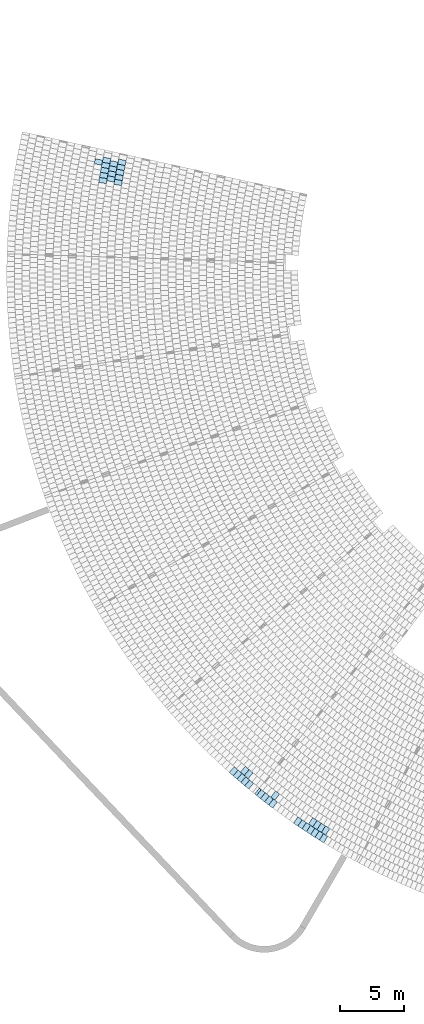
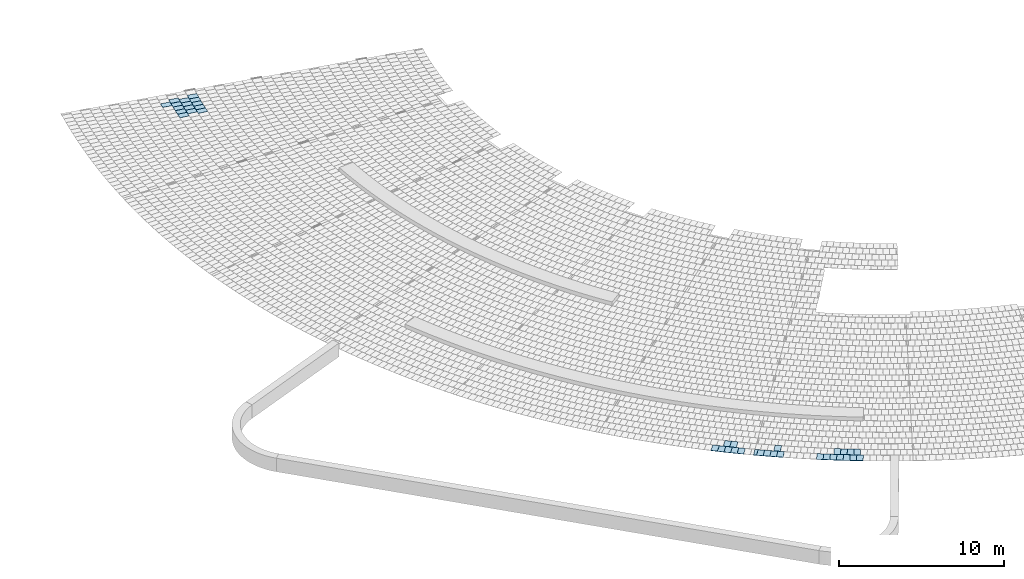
# One storey, part 92 of 438: 39 slabs.
"""IFC2X3 building model written with IfcOpenShell, lengths in millimetres."""

from ifc_helpers import new_model, entity, si_unit, converted_unit, derived_unit, direction, frame, frame_2d, origin, place, context, subcontext, project, spatial, polyline, rectangle, outline, extrude, material, layer, layer_set, layer_usage, type_object, element, save


model = new_model("IFC2X3")

# Units and contexts
model_context = context("Model", 3, precision=0.01, world=origin(), true_north=direction((6.123031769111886e-17, 1.0)))
body_context = subcontext(model_context, "Body", "Model", "MODEL_VIEW")
ifc_project = project(units=[si_unit("LENGTHUNIT", "METRE", prefix="MILLI"), si_unit("AREAUNIT", "SQUARE_METRE"), si_unit("VOLUMEUNIT", "CUBIC_METRE"), converted_unit("PLANEANGLEUNIT", "DEGREE", entity("IfcRatioMeasure", 0.017453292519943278), si_unit("PLANEANGLEUNIT", "RADIAN"), dimensions=[0, 0, 0, 0, 0, 0, 0]), si_unit("MASSUNIT", "GRAM", prefix="KILO"), derived_unit("MASSDENSITYUNIT", [(si_unit("MASSUNIT", "GRAM", prefix="KILO"), 1), (si_unit("LENGTHUNIT", "METRE"), -3)]), derived_unit("MOMENTOFINERTIAUNIT", [(si_unit("LENGTHUNIT", "METRE"), 4)]), si_unit("TIMEUNIT", "SECOND"), si_unit("FREQUENCYUNIT", "HERTZ"), si_unit("THERMODYNAMICTEMPERATUREUNIT", "DEGREE_CELSIUS"), derived_unit("THERMALTRANSMITTANCEUNIT", [(si_unit("MASSUNIT", "GRAM", prefix="KILO"), 1), (si_unit("THERMODYNAMICTEMPERATUREUNIT", "KELVIN"), -1), (si_unit("TIMEUNIT", "SECOND"), -3)]), derived_unit("THERMALCONDUCTANCEUNIT", [(si_unit("MASSUNIT", "GRAM", prefix="KILO"), 1), (si_unit("LENGTHUNIT", "METRE"), 1), (si_unit("THERMODYNAMICTEMPERATUREUNIT", "KELVIN"), -1), (si_unit("TIMEUNIT", "SECOND"), -3)]), derived_unit("VOLUMETRICFLOWRATEUNIT", [(si_unit("LENGTHUNIT", "METRE"), 3), (si_unit("TIMEUNIT", "SECOND"), -1)]), derived_unit("MASSFLOWRATEUNIT", [(si_unit("MASSUNIT", "GRAM", prefix="KILO"), 1), (si_unit("TIMEUNIT", "SECOND"), -1)]), derived_unit("ROTATIONALFREQUENCYUNIT", [(si_unit("TIMEUNIT", "SECOND"), -1)]), si_unit("ELECTRICCURRENTUNIT", "AMPERE"), si_unit("ELECTRICVOLTAGEUNIT", "VOLT"), si_unit("POWERUNIT", "WATT"), converted_unit("FORCEUNIT", "KIP", entity("IfcRatioMeasure", 2.088543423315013e-05), si_unit("FORCEUNIT", "NEWTON"), dimensions=[1, 1, -2, 0, 0, 0, 0]), si_unit("ILLUMINANCEUNIT", "LUX"), si_unit("LUMINOUSFLUXUNIT", "LUMEN"), si_unit("LUMINOUSINTENSITYUNIT", "CANDELA"), derived_unit("USERDEFINED", [(si_unit("MASSUNIT", "GRAM", prefix="KILO"), -1), (si_unit("LENGTHUNIT", "METRE"), -2), (si_unit("TIMEUNIT", "SECOND"), 3), (si_unit("LUMINOUSFLUXUNIT", "LUMEN"), 1)]), derived_unit("USERDEFINED", [(si_unit("MASSUNIT", "GRAM", prefix="KILO"), 1), (si_unit("LENGTHUNIT", "METRE"), 3), (si_unit("TIMEUNIT", "SECOND"), -3), (si_unit("ELECTRICCURRENTUNIT", "AMPERE"), -2)]), derived_unit("USERDEFINED", [(si_unit("LENGTHUNIT", "METRE"), 2), (si_unit("TIMEUNIT", "SECOND"), -2)]), derived_unit("SOUNDPOWERUNIT", [(si_unit("MASSUNIT", "GRAM", prefix="KILO"), 1), (si_unit("LENGTHUNIT", "METRE"), 2), (si_unit("TIMEUNIT", "SECOND"), -3)]), derived_unit("SOUNDPRESSUREUNIT", [(si_unit("MASSUNIT", "GRAM", prefix="KILO"), 1), (si_unit("LENGTHUNIT", "METRE"), -1), (si_unit("TIMEUNIT", "SECOND"), -2)]), derived_unit("LINEARVELOCITYUNIT", [(si_unit("LENGTHUNIT", "METRE"), 1), (si_unit("TIMEUNIT", "SECOND"), -1)]), si_unit("PRESSUREUNIT", "PASCAL"), derived_unit("USERDEFINED", [(si_unit("LENGTHUNIT", "METRE"), -2), (si_unit("MASSUNIT", "GRAM", prefix="KILO"), 1), (si_unit("TIMEUNIT", "SECOND"), -2)]), derived_unit("LINEARFORCEUNIT", [(si_unit("MASSUNIT", "GRAM", prefix="KILO"), 1), (si_unit("LENGTHUNIT", "METRE"), 1), (si_unit("TIMEUNIT", "SECOND"), -2), (si_unit("LENGTHUNIT", "METRE"), -1)]), derived_unit("PLANARFORCEUNIT", [(si_unit("MASSUNIT", "GRAM", prefix="KILO"), 1), (si_unit("LENGTHUNIT", "METRE"), 1), (si_unit("TIMEUNIT", "SECOND"), -2), (si_unit("LENGTHUNIT", "METRE"), -2)]), derived_unit("SPECIFICHEATCAPACITYUNIT", [(si_unit("LENGTHUNIT", "METRE"), 2), (si_unit("TIMEUNIT", "SECOND"), -2), (si_unit("THERMODYNAMICTEMPERATUREUNIT", "KELVIN"), -1)]), derived_unit("VAPORPERMEABILITYUNIT", [(si_unit("TIMEUNIT", "SECOND"), 1), (si_unit("LENGTHUNIT", "METRE"), -1)]), derived_unit("DYNAMICVISCOSITYUNIT", [(si_unit("MASSUNIT", "GRAM", prefix="KILO"), 1), (si_unit("LENGTHUNIT", "METRE"), -1), (si_unit("TIMEUNIT", "SECOND"), -1)]), derived_unit("THERMALEXPANSIONCOEFFICIENTUNIT", [(si_unit("THERMODYNAMICTEMPERATUREUNIT", "KELVIN"), -1)])], contexts=[model_context])

# Site, building, storey
site_placement = place(None, frame((0.0, 0.0, 0.0), z_axis=(0.0, 0.0, 1.0), x_axis=(0.8191520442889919, 0.5735764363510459, 0.0)))
site = spatial("IfcSite", under=ifc_project, at=site_placement, Name="Default", CompositionType="ELEMENT")
building_placement = place(site_placement, origin())
building = spatial("IfcBuilding", under=site, at=building_placement, CompositionType="ELEMENT")
storey_placement = place(building_placement, origin())
storey = spatial("IfcBuildingStorey", under=building, at=storey_placement, Name="PLAN", CompositionType="ELEMENT", Elevation=0.0)

# Slabs
ifc_material = material(Name="Paint-01")
ifc_layer = layer(ifc_material, 20.00000000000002)
ifc_layer_set = layer_set([ifc_layer], Name="Floor:Slab-179:1000")
ifc_layer_usage = layer_usage(ifc_layer_set, "AXIS3", "POSITIVE", 0.0)
slab_type = type_object("IfcSlabType", Name="Floor:Slab-179:1000", PredefinedType="FLOOR", material=ifc_layer_set)
slab_1_placement = place(storey_placement, origin())
element("IfcSlab", 1, at=slab_1_placement, inside=storey, type_object=slab_type, material=ifc_layer_usage, Name="Floor:Slab-179:1000", ObjectType="Floor:Slab-179:1000", PredefinedType="FLOOR", context=body_context, shape_type="SweptSolid", body=[
    extrude(outline(polyline([(-299.9999976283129, -200.0000029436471), (300.0, -200.0000029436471), (299.9999976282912, 200.0000029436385), (-300.0, 200.00000294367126), (-299.9999976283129, -200.0000029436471)])), frame((-70759.17855631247, -35787.00423847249, 520.0), z_axis=(0.0, 0.0, -1.0), x_axis=(0.6873772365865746, -0.7263005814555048, 0.0)), (0.0, 0.0, 1.0), 19.99999999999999),
])
slab_2_placement = place(storey_placement, origin())
element("IfcSlab", 2, at=slab_2_placement, inside=storey, type_object=slab_type, material=ifc_layer_usage, Name="Floor:Slab-179:1000", ObjectType="Floor:Slab-179:1000", PredefinedType="FLOOR", context=body_context, shape_type="SweptSolid", body=[
    extrude(outline(polyline([(-299.99999762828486, -200.00000294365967), (300.0, -200.00000294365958), (299.9999976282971, 200.00000294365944), (-300.0, 200.00000294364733), (-299.99999762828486, -200.00000294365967)])), frame((-71050.41561799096, -36065.15506051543, 520.0), z_axis=(0.0, 0.0, -1.0), x_axis=(0.6939544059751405, -0.7200189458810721, 0.0)), (0.0, 0.0, 1.0), 19.999999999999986),
])
slab_3_placement = place(storey_placement, origin())
element("IfcSlab", 3, at=slab_3_placement, inside=storey, type_object=slab_type, material=ifc_layer_usage, Name="Floor:Slab-179:1000", ObjectType="Floor:Slab-179:1000", PredefinedType="FLOOR", context=body_context, shape_type="SweptSolid", body=[
    extrude(outline(polyline([(-299.9999976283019, -200.00000294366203), (300.0, -200.00000294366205), (299.999997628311, 200.0000029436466), (-300.0, 200.00000294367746), (-299.9999976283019, -200.00000294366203)])), frame((-71339.11089291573, -36345.94313742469, 520.0), z_axis=(0.0, 0.0, -1.0), x_axis=(0.7004741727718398, -0.7136777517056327, 0.0)), (0.0, 0.0, 1.0), 20.000000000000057),
])
slab_4_placement = place(storey_placement, origin())
element("IfcSlab", 4, at=slab_4_placement, inside=storey, type_object=slab_type, material=ifc_layer_usage, Name="Floor:Slab-179:1000", ObjectType="Floor:Slab-179:1000", PredefinedType="FLOOR", context=body_context, shape_type="SweptSolid", body=[
    extrude(outline(polyline([(-299.99999762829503, -200.00000294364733), (300.0, -200.00000294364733), (299.9999976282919, 200.00000294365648), (-300.0, 200.00000294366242), (-299.99999762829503, -200.00000294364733)])), frame((-71908.78077342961, -36915.337934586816, 520.0), z_axis=(0.0, 0.0, -1.0), x_axis=(0.7133393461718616, -0.700818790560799, 0.0)), (0.0, 0.0, 1.0), 20.000000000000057),
])
slab_5_placement = place(storey_placement, origin())
element("IfcSlab", 5, at=slab_5_placement, inside=storey, type_object=slab_type, material=ifc_layer_usage, Name="Floor:Slab-179:1000", ObjectType="Floor:Slab-179:1000", PredefinedType="FLOOR", context=body_context, shape_type="SweptSolid", body=[
    extrude(rectangle(XDim=599.9999798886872, YDim=399.9999942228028, at=frame_2d((3.069544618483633e-12, 3.069544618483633e-12), x_axis=(1.0, 0.0))), frame((-71625.25757629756, -36629.4306251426, 520.0), z_axis=(0.0, 0.0, -1.0), x_axis=(0.7071067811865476, -0.7071067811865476, 0.0)), (0.0, 0.0, 1.0), 19.999999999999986),
])
slab_6_placement = place(storey_placement, origin())
element("IfcSlab", 6, at=slab_6_placement, inside=storey, type_object=slab_type, material=ifc_layer_usage, Name="Floor:Slab-179:1000", ObjectType="Floor:Slab-179:1000", PredefinedType="FLOOR", context=body_context, shape_type="SweptSolid", body=[
    extrude(outline(polyline([(-299.99999762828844, -200.0000029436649), (300.0, -200.00000294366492), (299.99999762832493, 200.00000294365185), (-300.0, 200.00000294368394), (-299.99999762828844, -200.0000029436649)])), frame((-71355.00271200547, -35518.85556445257, 520.0), z_axis=(0.0, 0.0, -1.0), x_axis=(0.6913866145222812, -0.7224849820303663, 0.0)), (0.0, 0.0, 1.0), 20.000000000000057),
])
slab_7_placement = place(storey_placement, origin())
element("IfcSlab", 7, at=slab_7_placement, inside=storey, type_object=slab_type, material=ifc_layer_usage, Name="Floor:Slab-179:1000", ObjectType="Floor:Slab-179:1000", PredefinedType="FLOOR", context=body_context, shape_type="SweptSolid", body=[
    extrude(outline(polyline([(-299.9999976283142, -200.00000294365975), (300.0, -200.00000294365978), (299.99999762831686, 200.00000294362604), (-300.0, 200.0000029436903), (-299.9999976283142, -200.00000294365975)])), frame((-71644.68652075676, -35798.57053963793, 520.0), z_axis=(0.0, 0.0, -1.0), x_axis=(0.6978405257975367, -0.7162531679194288, 0.0)), (0.0, 0.0, 1.0), 20.000000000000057),
])
slab_8_placement = place(storey_placement, origin())
element("IfcSlab", 8, at=slab_8_placement, inside=storey, type_object=slab_type, material=ifc_layer_usage, Name="Floor:Slab-179:1000", ObjectType="Floor:Slab-179:1000", PredefinedType="FLOOR", context=body_context, shape_type="SweptSolid", body=[
    extrude(outline(polyline([(-299.9999976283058, -200.00000294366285), (300.0, -200.00000294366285), (299.99999762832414, 200.00000294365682), (-300.0, 200.00000294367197), (-299.9999976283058, -200.00000294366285)])), frame((-72216.4677065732, -36365.74064581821, 520.0), z_axis=(0.0, 0.0, -1.0), x_axis=(0.7105793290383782, -0.7036170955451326, 0.0)), (0.0, 0.0, 1.0), 20.000000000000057),
])
slab_9_placement = place(storey_placement, origin())
element("IfcSlab", 9, at=slab_9_placement, inside=storey, type_object=slab_type, material=ifc_layer_usage, Name="Floor:Slab-179:1000", ObjectType="Floor:Slab-179:1000", PredefinedType="FLOOR", context=body_context, shape_type="SweptSolid", body=[
    extrude(outline(polyline([(-299.99999762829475, -200.00000294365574), (300.0, -200.00000294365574), (299.999997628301, 200.0000029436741), (-300.0, 200.00000294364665), (-299.99999762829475, -200.00000294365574)])), frame((-71931.84922337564, -36080.87314079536, 520.0), z_axis=(0.0, 0.0, -1.0), x_axis=(0.7042382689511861, -0.7099637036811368, 0.0)), (0.0, 0.0, 1.0), 20.000000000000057),
])
slab_10_placement = place(storey_placement, origin())
element("IfcSlab", 10, at=slab_10_placement, inside=storey, type_object=slab_type, material=ifc_layer_usage, Name="Floor:Slab-179:1000", ObjectType="Floor:Slab-179:1000", PredefinedType="FLOOR", context=body_context, shape_type="SweptSolid", body=[
    extrude(outline(polyline([(-299.999997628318, -200.00000294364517), (300.0, -200.00000294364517), (299.99999762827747, 200.00000294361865), (-300.0, 200.00000294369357), (-299.999997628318, -200.00000294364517)])), frame((-71659.22760995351, -34972.97581864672, 520.0), z_axis=(0.0, 0.0, -1.0), x_axis=(0.6888791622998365, -0.724876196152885, 0.0)), (0.0, 0.0, 1.0), 19.999999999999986),
])
slab_11_placement = place(storey_placement, origin())
element("IfcSlab", 11, at=slab_11_placement, inside=storey, type_object=slab_type, material=ifc_layer_usage, Name="Floor:Slab-179:1000", ObjectType="Floor:Slab-179:1000", PredefinedType="FLOOR", context=body_context, shape_type="SweptSolid", body=[
    extrude(outline(polyline([(-299.9999976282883, -200.00000294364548), (300.0, -200.00000294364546), (299.9999976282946, 200.0000029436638), (-300.0, 200.00000294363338), (-299.9999976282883, -200.00000294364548)])), frame((-72238.03373682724, -35532.87200765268, 520.0), z_axis=(0.0, 0.0, -1.0), x_axis=(0.7016029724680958, -0.7125680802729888, 0.0)), (0.0, 0.0, 1.0), 20.000000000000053),
])
slab_12_placement = place(storey_placement, origin())
element("IfcSlab", 12, at=slab_12_placement, inside=storey, type_object=slab_type, material=ifc_layer_usage, Name="Floor:Slab-179:1000", ObjectType="Floor:Slab-179:1000", PredefinedType="FLOOR", context=body_context, shape_type="SweptSolid", body=[
    extrude(rectangle(XDim=599.9996357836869, YDim=399.99976482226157, at=frame_2d((-3.069544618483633e-12, 3.069544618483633e-12), x_axis=(1.0, 0.0))), frame((-72523.61964324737, -35816.25239444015, 520.0), z_axis=(0.0, 0.0, -1.0), x_axis=(0.7071067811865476, -0.7071067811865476, 0.0)), (0.0, 0.0, 1.0), 19.999999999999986),
])
slab_13_placement = place(storey_placement, origin())
element("IfcSlab", 13, at=slab_13_placement, inside=storey, type_object=slab_type, material=ifc_layer_usage, Name="Floor:Slab-179:1000", ObjectType="Floor:Slab-179:1000", PredefinedType="FLOOR", context=body_context, shape_type="SweptSolid", body=[
    extrude(outline(polyline([(-299.9999976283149, -200.00000294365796), (300.0, -200.00000294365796), (299.99999762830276, 200.00000294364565), (-300.0, 200.00000294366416), (-299.9999976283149, -200.00000294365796)])), frame((-72806.83789142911, -36102.92648634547, 520.0), z_axis=(0.0, 0.0, -1.0), x_axis=(0.7141069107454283, -0.7000366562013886, 0.0)), (0.0, 0.0, 1.0), 19.999999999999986),
])
slab_14_placement = place(storey_placement, origin())
element("IfcSlab", 14, at=slab_14_placement, inside=storey, type_object=slab_type, material=ifc_layer_usage, Name="Floor:Slab-179:1000", ObjectType="Floor:Slab-179:1000", PredefinedType="FLOOR", context=body_context, shape_type="SweptSolid", body=[
    extrude(outline(polyline([(-299.9999976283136, -200.00000294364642), (300.0, -200.00000294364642), (299.99999762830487, 200.00000294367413), (-300.0, 200.00000294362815), (-299.9999976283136, -200.00000294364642)])), frame((-71949.86965590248, -35251.64308523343, 520.0), z_axis=(0.0, 0.0, -1.0), x_axis=(0.695268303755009, -0.7187502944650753, 0.0)), (0.0, 0.0, 1.0), 20.000000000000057),
])
slab_15_placement = place(storey_placement, origin())
element("IfcSlab", 15, at=slab_15_placement, inside=storey, type_object=slab_type, material=ifc_layer_usage, Name="Floor:Slab-179:1000", ObjectType="Floor:Slab-179:1000", PredefinedType="FLOOR", context=body_context, shape_type="SweptSolid", body=[
    extrude(outline(polyline([(-299.99999762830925, -200.0000029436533), (300.0, -200.0000029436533), (299.99999762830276, 200.00000294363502), (-300.0, 200.00000294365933), (-299.99999762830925, -200.0000029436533)])), frame((-72254.67743088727, -34705.14445037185, 520.0), z_axis=(0.0, 0.0, -1.0), x_axis=(0.6927554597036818, -0.7211725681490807, 0.0)), (0.0, 0.0, 1.0), 20.000000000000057),
])
slab_16_placement = place(storey_placement, origin())
element("IfcSlab", 16, at=slab_16_placement, inside=storey, type_object=slab_type, material=ifc_layer_usage, Name="Floor:Slab-179:1000", ObjectType="Floor:Slab-179:1000", PredefinedType="FLOOR", context=body_context, shape_type="SweptSolid", body=[
    extrude(outline(polyline([(-200.00000134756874, -299.9999986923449), (200.0000045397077, -299.99999869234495), (200.00000134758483, 299.99999869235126), (-200.00000453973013, 299.9999986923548), (-200.00000134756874, -299.9999986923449)])), frame((-88877.96414728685, -86958.91980552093, 520.0), z_axis=(0.0, 0.0, -1.0), x_axis=(0.3645857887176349, -0.9311698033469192, 0.0)), (0.0, 0.0, 1.0), 19.999999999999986),
])
slab_17_placement = place(storey_placement, origin())
element("IfcSlab", 17, at=slab_17_placement, inside=storey, type_object=slab_type, material=ifc_layer_usage, Name="Floor:Slab-179:1000", ObjectType="Floor:Slab-179:1000", PredefinedType="FLOOR", context=body_context, shape_type="SweptSolid", body=[
    extrude(outline(polyline([(-200.0000045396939, -299.9999986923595), (200.00000134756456, -299.99999869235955), (200.00000453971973, 299.9999986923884), (-200.0000013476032, 299.9999986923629), (-200.0000045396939, -299.9999986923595)])), frame((-88240.89732246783, -86925.52516931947, 520.0), z_axis=(0.0, 0.0, -1.0), x_axis=(0.36821751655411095, -0.9297396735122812, 0.0)), (0.0, 0.0, 1.0), 20.000000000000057),
])
slab_18_placement = place(storey_placement, origin())
element("IfcSlab", 18, at=slab_18_placement, inside=storey, type_object=slab_type, material=ifc_layer_usage, Name="Floor:Slab-179:1000", ObjectType="Floor:Slab-179:1000", PredefinedType="FLOOR", context=body_context, shape_type="SweptSolid", body=[
    extrude(outline(polyline([(-200.00000453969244, -299.99999869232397), (200.00000134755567, -299.99999869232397), (200.0000045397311, 299.99999869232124), (-200.00000134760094, 299.9999986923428), (-200.00000453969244, -299.99999869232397)])), frame((-87938.77201673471, -87671.32452095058, 520.0), z_axis=(0.0, 0.0, -1.0), x_axis=(0.3826878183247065, -0.9238777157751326, 0.0)), (0.0, 0.0, 1.0), 20.000000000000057),
])
slab_19_placement = place(storey_placement, origin())
element("IfcSlab", 19, at=slab_19_placement, inside=storey, type_object=slab_type, material=ifc_layer_usage, Name="Floor:Slab-179:1000", ObjectType="Floor:Slab-179:1000", PredefinedType="FLOOR", context=body_context, shape_type="SweptSolid", body=[
    extrude(outline(polyline([(-200.00000453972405, -299.99999869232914), (200.0000013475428, -299.99999869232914), (200.0000045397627, 299.9999986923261), (-200.00000134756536, 299.9999986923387), (-200.00000453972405, -299.99999869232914)])), frame((-88091.29017187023, -87299.01447298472, 520.0), z_axis=(0.0, 0.0, -1.0), x_axis=(0.37546410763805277, -0.9268369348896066, 0.0)), (0.0, 0.0, 1.0), 20.000000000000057),
])
slab_20_placement = place(storey_placement, origin())
element("IfcSlab", 20, at=slab_20_placement, inside=storey, type_object=slab_type, material=ifc_layer_usage, Name="Floor:Slab-179:1000", ObjectType="Floor:Slab-179:1000", PredefinedType="FLOOR", context=body_context, shape_type="SweptSolid", body=[
    extrude(outline(polyline([(-200.00000453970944, -299.9999986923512), (200.00000134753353, -299.9999986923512), (200.00000453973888, 299.9999986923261), (-200.00000134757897, 299.9999986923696), (-200.00000453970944, -299.9999986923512)])), frame((-87783.35215136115, -88042.43262502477, 520.0), z_axis=(0.0, 0.0, -1.0), x_axis=(0.3898882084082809, -0.9208621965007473, 0.0)), (0.0, 0.0, 1.0), 20.000000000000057),
])
slab_21_placement = place(storey_placement, origin())
element("IfcSlab", 21, at=slab_21_placement, inside=storey, type_object=slab_type, material=ifc_layer_usage, Name="Floor:Slab-179:1000", ObjectType="Floor:Slab-179:1000", PredefinedType="FLOOR", context=body_context, shape_type="SweptSolid", body=[
    extrude(outline(polyline([(-200.00000134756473, -299.99999869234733), (200.000004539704, -299.99999869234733), (200.000001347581, 299.9999986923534), (-200.00000453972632, 299.9999986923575), (-200.00000134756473, -299.99999869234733)])), frame((-89165.5269237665, -86207.44357700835, 520.0), z_axis=(0.0, 0.0, -1.0), x_axis=(0.35017450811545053, -0.9366844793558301, 0.0)), (0.0, 0.0, 1.0), 20.000000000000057),
])
slab_22_placement = place(storey_placement, origin())
element("IfcSlab", 22, at=slab_22_placement, inside=storey, type_object=slab_type, material=ifc_layer_usage, Name="Floor:Slab-179:1000", ObjectType="Floor:Slab-179:1000", PredefinedType="FLOOR", context=body_context, shape_type="SweptSolid", body=[
    extrude(outline(polyline([(-200.0000013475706, -299.99999869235), (200.00000453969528, -299.9999986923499), (200.00000134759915, 299.9999986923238), (-200.00000453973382, 299.9999986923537), (-200.0000013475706, -299.99999869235)])), frame((-89023.1950026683, -86583.73634992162, 520.0), z_axis=(0.0, 0.0, -1.0), x_axis=(0.3573907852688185, -0.9339549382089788, 0.0)), (0.0, 0.0, 1.0), 19.999999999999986),
])
slab_23_placement = place(storey_placement, origin())
element("IfcSlab", 23, at=slab_23_placement, inside=storey, type_object=slab_type, material=ifc_layer_usage, Name="Floor:Slab-179:1000", ObjectType="Floor:Slab-179:1000", PredefinedType="FLOOR", context=body_context, shape_type="SweptSolid", body=[
    extrude(outline(polyline([(-200.00000134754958, -299.99999869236), (200.00000453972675, -299.99999869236), (200.00000134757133, 299.9999986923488), (-200.0000045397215, 299.9999986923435), (-200.00000134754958, -299.99999869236)])), frame((-89958.17852259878, -83927.65006527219, 520.0), z_axis=(0.0, 0.0, -1.0), x_axis=(0.3064542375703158, -0.9518853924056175, 0.0)), (0.0, 0.0, 1.0), 20.000000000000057),
])
slab_24_placement = place(storey_placement, origin())
element("IfcSlab", 24, at=slab_24_placement, inside=storey, type_object=slab_type, material=ifc_layer_usage, Name="Floor:Slab-179:1000", ObjectType="Floor:Slab-179:1000", PredefinedType="FLOOR", context=body_context, shape_type="SweptSolid", body=[
    extrude(outline(polyline([(-200.00000134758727, -299.9999986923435), (200.00000453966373, -299.9999986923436), (200.00000134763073, 299.99999869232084), (-200.000004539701, 299.9999986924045), (-200.00000134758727, -299.9999986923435)])), frame((-90079.99040445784, -83544.22276818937, 520.0), z_axis=(0.0, 0.0, -1.0), x_axis=(0.29910113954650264, -0.9542214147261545, 0.0)), (0.0, 0.0, 1.0), 20.000000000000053),
])
slab_25_placement = place(storey_placement, origin())
element("IfcSlab", 25, at=slab_25_placement, inside=storey, type_object=slab_type, material=ifc_layer_usage, Name="Floor:Slab-179:1000", ObjectType="Floor:Slab-179:1000", PredefinedType="FLOOR", context=body_context, shape_type="SweptSolid", body=[
    extrude(outline(polyline([(-200.00000134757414, -299.99999869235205), (200.00000453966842, -299.99999869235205), (200.00000134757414, 299.99999869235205), (-200.00000453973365, 299.9999986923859), (-200.00000134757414, -299.99999869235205)])), frame((-89454.92115398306, -83514.83295119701, 520.0), z_axis=(0.0, 0.0, -1.0), x_axis=(0.30204189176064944, -0.9532946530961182, 0.0)), (0.0, 0.0, 1.0), 20.000000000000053),
])
slab_26_placement = place(storey_placement, origin())
element("IfcSlab", 26, at=slab_26_placement, inside=storey, type_object=slab_type, material=ifc_layer_usage, Name="Floor:Slab-179:1000", ObjectType="Floor:Slab-179:1000", PredefinedType="FLOOR", context=body_context, shape_type="SweptSolid", body=[
    extrude(outline(polyline([(-299.9999991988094, -95.19024377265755), (299.99999818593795, -95.19024377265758), (299.9999991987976, 95.19024377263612), (-299.9999981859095, 95.19024377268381), (-299.9999991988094, -95.19024377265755)])), frame((-90398.60121109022, -82489.1725600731, 520.0), z_axis=(0.0, 0.0, -1.0), x_axis=(0.9608881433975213, 0.2769367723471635, 0.0)), (0.0, 0.0, 1.0), 20.000000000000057),
])
slab_27_placement = place(storey_placement, origin())
element("IfcSlab", 27, at=slab_27_placement, inside=storey, type_object=slab_type, material=ifc_layer_usage, Name="Floor:Slab-179:1000", ObjectType="Floor:Slab-179:1000", PredefinedType="FLOOR", context=body_context, shape_type="SweptSolid", body=[
    extrude(outline(polyline([(-200.00000453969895, -299.9999986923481), (200.00000134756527, -299.9999986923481), (200.00000453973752, 299.9999986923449), (-200.00000134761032, 299.99999869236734), (-200.00000453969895, -299.9999986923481)])), frame((-88729.84300249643, -87332.97161099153, 520.0), z_axis=(0.0, 0.0, -1.0), x_axis=(0.3717590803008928, -0.9283292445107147, 0.0)), (0.0, 0.0, 1.0), 20.000000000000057),
])
slab_28_placement = place(storey_placement, origin())
element("IfcSlab", 28, at=slab_28_placement, inside=storey, type_object=slab_type, material=ifc_layer_usage, Name="Floor:Slab-179:1000", ObjectType="Floor:Slab-179:1000", PredefinedType="FLOOR", context=body_context, shape_type="SweptSolid", body=[
    extrude(outline(polyline([(-200.0000013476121, -299.9999986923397), (200.00000453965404, -299.9999986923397), (200.0000013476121, 299.9999986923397), (-200.00000453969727, 299.9999986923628), (-200.0000013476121, -299.9999986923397)])), frame((-90198.8404462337, -83159.86708099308, 520.0), z_axis=(0.0, 0.0, -1.0), x_axis=(0.2917302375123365, -0.9565006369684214, 0.0)), (0.0, 0.0, 1.0), 20.000000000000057),
])
slab_29_placement = place(storey_placement, origin())
element("IfcSlab", 29, at=slab_29_placement, inside=storey, type_object=slab_type, material=ifc_layer_usage, Name="Floor:Slab-179:1000", ObjectType="Floor:Slab-179:1000", PredefinedType="FLOOR", context=body_context, shape_type="SweptSolid", body=[
    extrude(outline(polyline([(-200.00000453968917, -299.9999986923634), (200.00000134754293, -299.99999869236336), (200.00000453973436, 299.99999869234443), (-200.0000013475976, 299.9999986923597), (-200.00000453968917, -299.9999986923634)])), frame((-88578.84038521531, -87705.86950088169, 520.0), z_axis=(0.0, 0.0, -1.0), x_axis=(0.37891025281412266, -0.9254334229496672, 0.0)), (0.0, 0.0, 1.0), 20.000000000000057),
])
slab_30_placement = place(storey_placement, origin())
element("IfcSlab", 30, at=slab_30_placement, inside=storey, type_object=slab_type, material=ifc_layer_usage, Name="Floor:Slab-179:1000", ObjectType="Floor:Slab-179:1000", PredefinedType="FLOOR", context=body_context, shape_type="SweptSolid", body=[
    extrude(outline(polyline([(-200.00000453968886, -299.99999869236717), (200.00000134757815, -299.99999869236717), (200.00000453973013, 299.99999869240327), (-200.0000013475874, 299.9999986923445), (-200.00000453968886, -299.99999869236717)])), frame((-88424.96528388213, -88077.59127842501, 520.0), z_axis=(0.0, 0.0, -1.0), x_axis=(0.38603887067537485, -0.9224825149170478, 0.0)), (0.0, 0.0, 1.0), 20.000000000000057),
])
slab_31_placement = place(storey_placement, origin())
element("IfcSlab", 31, at=slab_31_placement, inside=storey, type_object=slab_type, material=ifc_layer_usage, Name="Floor:Slab-179:1000", ObjectType="Floor:Slab-179:1000", PredefinedType="FLOOR", context=body_context, shape_type="SweptSolid", body=[
    extrude(outline(polyline([(-200.00000134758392, -299.99999869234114), (200.0000045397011, -299.99999869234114), (200.00000134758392, 299.99999869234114), (-200.00000453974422, 299.9999986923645), (-200.00000134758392, -299.99999869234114)])), frame((-90314.7215733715, -82774.60588247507, 520.0), z_axis=(0.0, 0.0, -1.0), x_axis=(0.2843419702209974, -0.9587229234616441, 0.0)), (0.0, 0.0, 1.0), 20.000000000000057),
])
slab_32_placement = place(storey_placement, origin())
element("IfcSlab", 32, at=slab_32_placement, inside=storey, type_object=slab_type, material=ifc_layer_usage, Name="Floor:Slab-179:1000", ObjectType="Floor:Slab-179:1000", PredefinedType="FLOOR", context=body_context, shape_type="SweptSolid", body=[
    extrude(outline(polyline([(-200.0000045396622, -299.9999986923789), (200.00000134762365, -299.9999986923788), (200.00000453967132, 299.9999986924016), (-200.0000013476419, 299.9999986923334), (-200.0000045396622, -299.9999986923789)])), frame((-88268.2268579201, -88448.1148168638, 520.0), z_axis=(0.0, 0.0, -1.0), x_axis=(0.39314450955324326, -0.9194766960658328, 0.0)), (0.0, 0.0, 1.0), 19.99999999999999),
])
slab_33_placement = place(storey_placement, origin())
element("IfcSlab", 33, at=slab_33_placement, inside=storey, type_object=slab_type, material=ifc_layer_usage, Name="Floor:Slab-179:1000", ObjectType="Floor:Slab-179:1000", PredefinedType="FLOOR", context=body_context, shape_type="SweptSolid", body=[
    extrude(outline(polyline([(-200.00000453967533, -299.9999986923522), (200.00000134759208, -299.9999986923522), (200.0000045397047, 299.9999986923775), (-200.0000013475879, 299.9999986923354), (-200.00000453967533, -299.9999986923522)])), frame((-90298.59695824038, -80546.11847534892, 520.0), z_axis=(0.0, 0.0, -1.0), x_axis=(0.24444167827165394, -0.9696639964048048, 0.0)), (0.0, 0.0, 1.0), 19.99999999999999),
])
slab_34_placement = place(storey_placement, origin())
element("IfcSlab", 34, at=slab_34_placement, inside=storey, type_object=slab_type, material=ifc_layer_usage, Name="Floor:Slab-179:1000", ObjectType="Floor:Slab-179:1000", PredefinedType="FLOOR", context=body_context, shape_type="SweptSolid", body=[
    extrude(outline(polyline([(-200.00000453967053, -299.9999986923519), (200.00000134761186, -299.9999986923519), (200.00000453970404, 299.9999986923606), (-200.0000013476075, 299.9999986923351), (-200.00000453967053, -299.9999986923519)])), frame((-90198.726561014, -80935.8651407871, 520.0), z_axis=(0.0, 0.0, -1.0), x_axis=(0.25200370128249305, -0.9677262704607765, 0.0)), (0.0, 0.0, 1.0), 19.99999999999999),
])
slab_35_placement = place(storey_placement, origin())
element("IfcSlab", 35, at=slab_35_placement, inside=storey, type_object=slab_type, material=ifc_layer_usage, Name="Floor:Slab-179:1000", ObjectType="Floor:Slab-179:1000", PredefinedType="FLOOR", context=body_context, shape_type="SweptSolid", body=[
    extrude(outline(polyline([(-200.00000453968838, -299.9999986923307), (200.0000013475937, -299.9999986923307), (200.0000045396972, 299.9999986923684), (-200.00000134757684, 299.9999986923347), (-200.00000453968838, -299.9999986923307)])), frame((-91037.66363924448, -80073.35659361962, 520.0), z_axis=(0.0, 0.0, -1.0), x_axis=(0.23253930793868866, -0.9725869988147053, 0.0)), (0.0, 0.0, 1.0), 20.000000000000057),
])
slab_36_placement = place(storey_placement, origin())
element("IfcSlab", 36, at=slab_36_placement, inside=storey, type_object=slab_type, material=ifc_layer_usage, Name="Floor:Slab-179:1000", ObjectType="Floor:Slab-179:1000", PredefinedType="FLOOR", context=body_context, shape_type="SweptSolid", body=[
    extrude(outline(polyline([(-200.00000453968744, -299.999998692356), (200.00000134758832, -299.99999869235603), (200.00000453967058, 299.9999986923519), (-200.00000134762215, 299.99999869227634), (-200.00000453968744, -299.999998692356)])), frame((-90942.6016484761, -80464.27582392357, 520.0), z_axis=(0.0, 0.0, -1.0), x_axis=(0.2400360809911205, -0.9707639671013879, 0.0)), (0.0, 0.0, 1.0), 20.000000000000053),
])
slab_37_placement = place(storey_placement, origin())
element("IfcSlab", 37, at=slab_37_placement, inside=storey, type_object=slab_type, material=ifc_layer_usage, Name="Floor:Slab-179:1000", ObjectType="Floor:Slab-179:1000", PredefinedType="FLOOR", context=body_context, shape_type="SweptSolid", body=[
    extrude(outline(polyline([(-200.00000453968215, -299.9999986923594), (200.00000134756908, -299.99999869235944), (200.00000453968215, 299.9999986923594), (-200.00000134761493, 299.99999869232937), (-200.00000453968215, -299.9999986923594)])), frame((-90743.44394368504, -81243.85589104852, 520.0), z_axis=(0.0, 0.0, -1.0), x_axis=(0.25498631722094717, -0.9669446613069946, 0.0)), (0.0, 0.0, 1.0), 20.000000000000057),
])
slab_38_placement = place(storey_placement, origin())
element("IfcSlab", 38, at=slab_38_placement, inside=storey, type_object=slab_type, material=ifc_layer_usage, Name="Floor:Slab-179:1000", ObjectType="Floor:Slab-179:1000", PredefinedType="FLOOR", context=body_context, shape_type="SweptSolid", body=[
    extrude(outline(polyline([(-200.0000045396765, -299.99999869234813), (200.00000134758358, -299.99999869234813), (200.00000453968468, 299.999998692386), (-200.00000134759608, 299.9999986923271), (-200.0000045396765, -299.99999869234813)])), frame((-90844.5264706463, -80854.44999811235, 520.0), z_axis=(0.0, 0.0, -1.0), x_axis=(0.24751856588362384, -0.9688831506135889, 0.0)), (0.0, 0.0, 1.0), 20.000000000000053),
])
slab_39_placement = place(storey_placement, origin())
element("IfcSlab", 39, at=slab_39_placement, inside=storey, type_object=slab_type, material=ifc_layer_usage, Name="Floor:Slab-179:1000", ObjectType="Floor:Slab-179:1000", PredefinedType="FLOOR", context=body_context, shape_type="SweptSolid", body=[
    extrude(outline(polyline([(-200.00000453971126, -299.99999869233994), (200.00000134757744, -299.99999869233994), (200.00000453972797, 299.9999986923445), (-200.00000134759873, 299.99999869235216), (-200.00000453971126, -299.99999869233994)])), frame((-90639.36008453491, -81632.4703233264, 520.0), z_axis=(0.0, 0.0, -1.0), x_axis=(0.26243889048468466, -0.9649486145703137, 0.0)), (0.0, 0.0, 1.0), 20.000000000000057),
])

save(model, "model.ifc")
